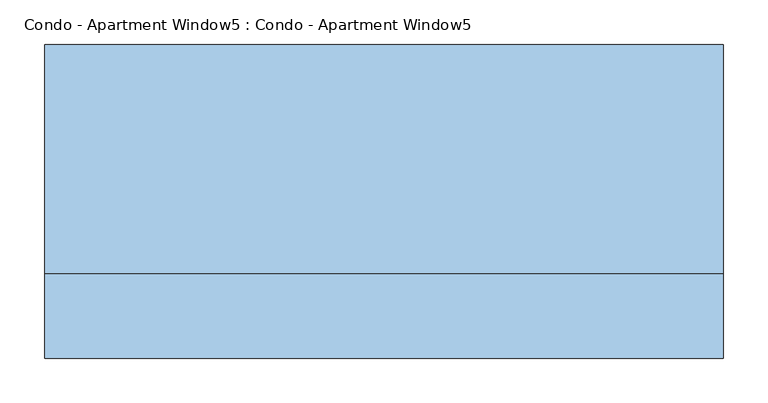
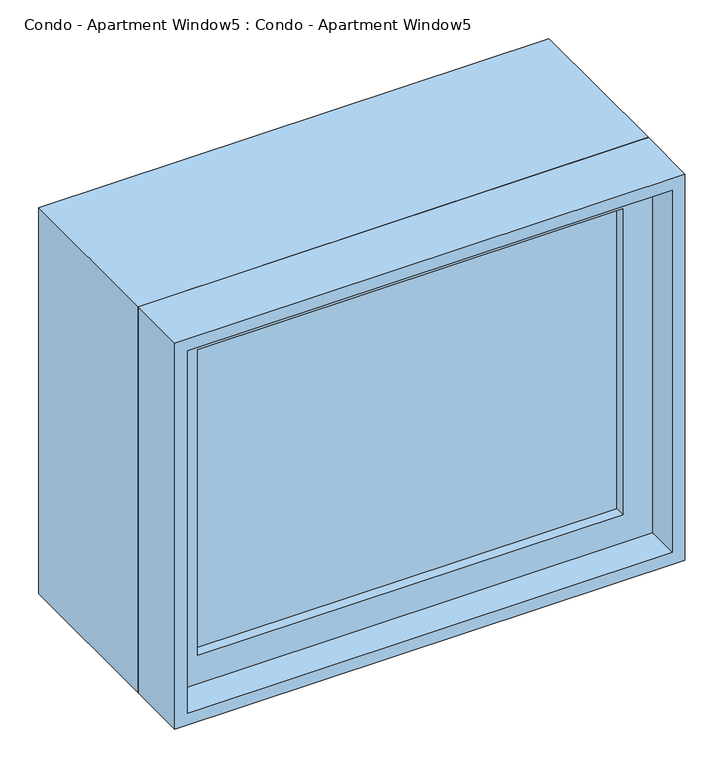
"""IFC4 building model written with IfcOpenShell, lengths in millimetres: window geometry, Condo - Apartment Window5 : Condo - Apartment Window5."""

from ifc_helpers import new_model, si_unit, frame, origin, place, context, project, spatial, polyline, outline, extrude, source, transform, mapped, element, save


def condo_apartment_window5_condo_apartment_window5_0e9632d7(model_context):
    return source(origin(), model_context, "Body", "SweptSolid", [
        extrude(outline(polyline([(279.4, -96.8375), (279.4, -109.5375), (-355.6, -109.5375), (-355.6, -96.8375), (279.4, -96.8375)])), frame((0.0, 0.0, 1574.8), z_axis=(0.0, 0.0, 1.0), x_axis=(1.0, 0.0, 0.0)), (0.0, 0.0, 1.0), 482.6),
        extrude(outline(polyline([(2101.85, -400.05), (1530.35, -400.05), (1530.35, 323.85), (2101.85, 323.85), (2101.85, -400.05)]), holes=[polyline([(2057.4, -355.6), (2057.4, 279.4), (1574.8, 279.4), (1574.8, -355.6), (2057.4, -355.6)])]), frame((0.0, -125.4125, 0.0), z_axis=(0.0, 1.0, 0.0), x_axis=(0.0, 0.0, 1.0)), (0.0, 0.0, 1.0), 44.45),
        extrude(outline(polyline([(2120.9, -419.1), (1511.3, -419.1), (1511.3, 342.9), (2120.9, 342.9), (2120.9, -419.1)]), holes=[polyline([(2089.15, -387.35), (2089.15, 311.15), (1543.05, 311.15), (1543.05, -387.35), (2089.15, -387.35)])]), frame((0.0, -80.9625, 0.0), z_axis=(0.0, 1.0, 0.0), x_axis=(0.0, 0.0, 1.0)), (0.0, 0.0, 1.0), 257.175),
        extrude(outline(polyline([(2120.9, 342.9), (2120.9, -419.1), (1511.3, -419.1), (1511.3, 342.9), (2120.9, 342.9)]), holes=[polyline([(2101.85, 323.85), (1530.35, 323.85), (1530.35, -400.05), (2101.85, -400.05), (2101.85, 323.85)])]), frame((0.0, -176.2125, 0.0), z_axis=(0.0, 1.0, 0.0), x_axis=(0.0, 0.0, 1.0)), (0.0, 0.0, 1.0), 95.25),
    ])


if __name__ == "__main__":
    model = new_model("IFC4")
    model_context = context("Model", 3, world=origin())
    ifc_project = project(units=[si_unit("LENGTHUNIT", "METRE", prefix="MILLI")], contexts=[model_context])
    site = spatial("IfcSite", under=ifc_project)
    building = spatial("IfcBuilding", under=site)
    placement = place(None, origin())
    condo_apartment_window5_condo_apartment_window5_shape = condo_apartment_window5_condo_apartment_window5_0e9632d7(model_context)
    element("IfcWindow", 1, ObjectType="Condo - Apartment Window5 : Condo - Apartment Window5", at=placement, inside=building, context=model_context, shape_type="MappedRepresentation", body=[
        mapped(condo_apartment_window5_condo_apartment_window5_shape, transform((0.0, 0.0, 0.0), x_axis=(1.0, 0.0, 0.0), y_axis=(0.0, 1.0, 0.0), z_axis=(0.0, 0.0, 1.0))),
    ])
    save(model, "model.ifc")
